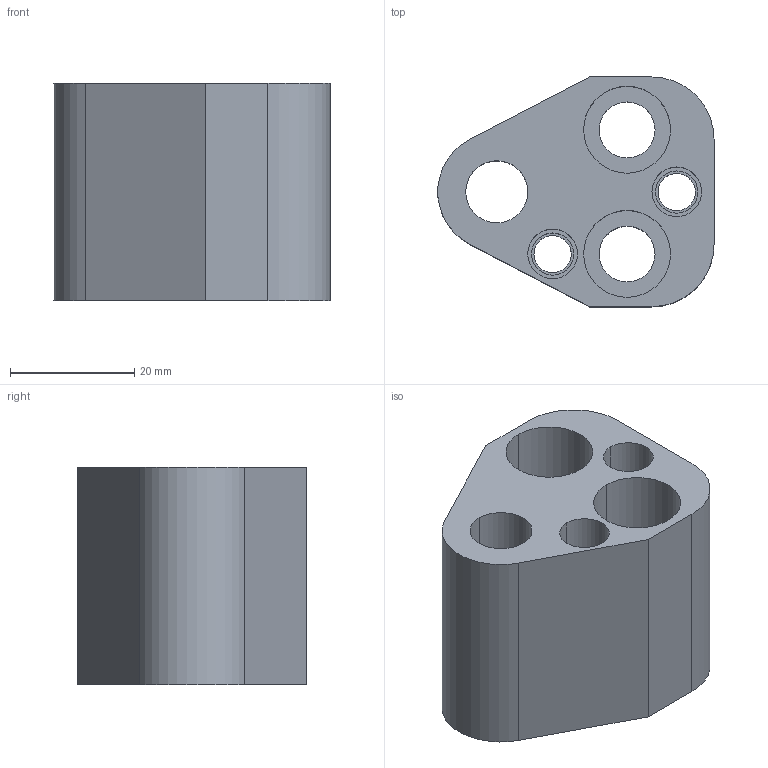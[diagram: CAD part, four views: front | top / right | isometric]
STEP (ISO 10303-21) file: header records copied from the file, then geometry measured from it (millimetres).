
FILE_DESCRIPTION(/* description */ (''),/* implementation_level */ '2;1');
FILE_NAME(/* name */ '3d_hap-an10_04001_r00.stp',/* time_stamp */ '2011-01-10T14:14:59+09:00',/* author */ ('MISUMI'),/* organization */ (''),/* preprocessor_version */ 'ST-DEVELOPER v11',/* originating_system */ 'UGS - NX 5.0',/* authorisation */ '');
FILE_SCHEMA (('CONFIG_CONTROL_DESIGN'));
Length unit declared in the file: millimetre
Products named in the file (1): 3d_hap-an10_04001_r00
Bounding box: 44.47 x 37 x 35 mm (x, y, z)
Volume: 31049.2 mm3; surface area: 11945.3 mm2
Topology: 1 solids, 1 shells, 43 faces, 100 edges, 66 vertices
Faces by surface type: cylinder 27, plane 14, cone 2
Entity records: 1360 total; most frequent: DIRECTION 244, CARTESIAN_POINT 210, ORIENTED_EDGE 200, EDGE_CURVE 100, AXIS2_PLACEMENT_3D 100, VERTEX_POINT 66, EDGE_LOOP 60, CIRCLE 56
